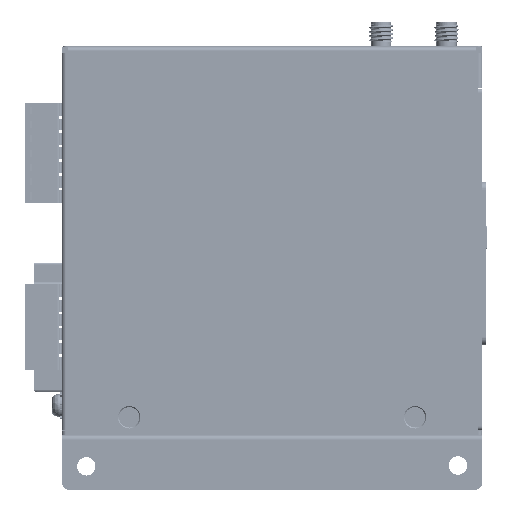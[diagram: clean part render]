
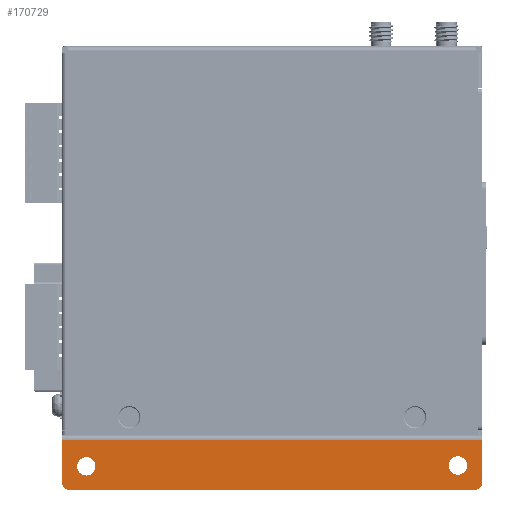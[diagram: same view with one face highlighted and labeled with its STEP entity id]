
A CAD part, left-side view. The second image highlights one B-rep face of the part: STEP entity #170729.
In plain terms, the highlighted planar face has unit normal (-1, 0, 0) as drawn and (0, -1, 0) by its records, which use the part's own axes.
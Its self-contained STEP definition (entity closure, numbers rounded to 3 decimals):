
#7935 = VERTEX_POINT ( 'NONE', #281971 ) ;
#8410 = LINE ( 'NONE', #318876, #205879 ) ;
#36762 = VERTEX_POINT ( 'NONE', #340315 ) ;
#43516 = CARTESIAN_POINT ( 'NONE',  ( 13.5, 0., -51.5 ) ) ;
#45576 = VERTEX_POINT ( 'NONE', #78691 ) ;
#54947 = DIRECTION ( 'NONE',  ( -1., 0., 0. ) ) ;
#57944 = VERTEX_POINT ( 'NONE', #59772 ) ;
#59772 = CARTESIAN_POINT ( 'NONE',  ( 9.75, 0., 45.5 ) ) ;
#62387 = CARTESIAN_POINT ( 'NONE',  ( 1.2, 0., -51.5 ) ) ;
#62994 = DIRECTION ( 'NONE',  ( 0., -1., 0. ) ) ;
#64166 = DIRECTION ( 'NONE',  ( 1., 0., 0. ) ) ;
#70300 = FACE_OUTER_BOUND ( 'NONE', #256128, .T. ) ;
#72680 = CARTESIAN_POINT ( 'NONE',  ( 1.2, 0., -51.5 ) ) ;
#73794 = AXIS2_PLACEMENT_3D ( 'NONE', #242521, #284144, #64166 ) ;
#78691 = CARTESIAN_POINT ( 'NONE',  ( 5.465, 0., -45.5 ) ) ;
#84995 = LINE ( 'NONE', #43516, #194263 ) ;
#87804 = EDGE_CURVE ( 'NONE', #36762, #442252, #8410, .T. ) ;
#87983 = LINE ( 'NONE', #303518, #217595 ) ;
#88719 = CIRCLE ( 'NONE', #96109, 2. ) ;
#90443 = EDGE_CURVE ( 'NONE', #124307, #57944, #355401, .T. ) ;
#93372 = VERTEX_POINT ( 'NONE', #143451 ) ;
#96109 = AXIS2_PLACEMENT_3D ( 'NONE', #408291, #158331, #371302 ) ;
#97506 = CARTESIAN_POINT ( 'NONE',  ( 11.5, 0., 49.5 ) ) ;
#102922 = LINE ( 'NONE', #72680, #138504 ) ;
#104261 = EDGE_CURVE ( 'NONE', #442252, #404345, #174017, .T. ) ;
#106018 = ORIENTED_EDGE ( 'NONE', *, *, #378816, .F. ) ;
#111975 = EDGE_LOOP ( 'NONE', ( #262454, #316065 ) ) ;
#124307 = VERTEX_POINT ( 'NONE', #124643 ) ;
#124643 = CARTESIAN_POINT ( 'NONE',  ( 5.25, 0., 45.5 ) ) ;
#125830 = CIRCLE ( 'NONE', #73794, 2.25 ) ;
#138504 = VECTOR ( 'NONE', #385245, 1000. ) ;
#143451 = CARTESIAN_POINT ( 'NONE',  ( 9.965, 0., -45.5 ) ) ;
#146598 = EDGE_CURVE ( 'NONE', #45576, #93372, #431271, .T. ) ;
#147280 = DIRECTION ( 'NONE',  ( 0., 0., 1. ) ) ;
#149064 = EDGE_CURVE ( 'NONE', #7935, #251797, #102922, .T. ) ;
#158331 = DIRECTION ( 'NONE',  ( 0., -1., 0. ) ) ;
#162852 = DIRECTION ( 'NONE',  ( 0., -1., 0. ) ) ;
#163751 = PLANE ( 'NONE',  #434114 ) ;
#166628 = CARTESIAN_POINT ( 'NONE',  ( 11.5, 0., 51.5 ) ) ;
#170729 = ADVANCED_FACE ( 'NONE', ( #318257, #409101, #70300 ), #163751, .F. ) ;
#173168 = EDGE_CURVE ( 'NONE', #93372, #45576, #125830, .T. ) ;
#174017 = CIRCLE ( 'NONE', #196135, 2. ) ;
#177737 = ORIENTED_EDGE ( 'NONE', *, *, #448762, .T. ) ;
#187188 = CARTESIAN_POINT ( 'NONE',  ( 13.5, 0., 49.5 ) ) ;
#188514 = CARTESIAN_POINT ( 'NONE',  ( 7.5, 0., 45.5 ) ) ;
#194263 = VECTOR ( 'NONE', #332938, 1000. ) ;
#196135 = AXIS2_PLACEMENT_3D ( 'NONE', #97506, #416919, #410072 ) ;
#196483 = ORIENTED_EDGE ( 'NONE', *, *, #173168, .F. ) ;
#205879 = VECTOR ( 'NONE', #147280, 1000. ) ;
#215099 = AXIS2_PLACEMENT_3D ( 'NONE', #345555, #62994, #239080 ) ;
#217595 = VECTOR ( 'NONE', #224803, 1000. ) ;
#224803 = DIRECTION ( 'NONE',  ( -1., 0., 0. ) ) ;
#239080 = DIRECTION ( 'NONE',  ( 1., 0., 0. ) ) ;
#242448 = AXIS2_PLACEMENT_3D ( 'NONE', #188514, #162852, #329874 ) ;
#242521 = CARTESIAN_POINT ( 'NONE',  ( 7.715, 0., -45.5 ) ) ;
#245911 = CARTESIAN_POINT ( 'NONE',  ( 7.715, 0., -45.5 ) ) ;
#249104 = VERTEX_POINT ( 'NONE', #259289 ) ;
#251797 = VERTEX_POINT ( 'NONE', #62387 ) ;
#256128 = EDGE_LOOP ( 'NONE', ( #106018, #177737, #414319, #310418, #411080, #299646 ) ) ;
#259289 = CARTESIAN_POINT ( 'NONE',  ( 11.5, 0., -51.5 ) ) ;
#262454 = ORIENTED_EDGE ( 'NONE', *, *, #376585, .F. ) ;
#276602 = DIRECTION ( 'NONE',  ( 0., 1., 0. ) ) ;
#281971 = CARTESIAN_POINT ( 'NONE',  ( 1.2, 0., 51.5 ) ) ;
#284144 = DIRECTION ( 'NONE',  ( 0., -1., 0. ) ) ;
#299646 = ORIENTED_EDGE ( 'NONE', *, *, #149064, .T. ) ;
#303518 = CARTESIAN_POINT ( 'NONE',  ( 13.5, 0., 51.5 ) ) ;
#306949 = ORIENTED_EDGE ( 'NONE', *, *, #146598, .F. ) ;
#310418 = ORIENTED_EDGE ( 'NONE', *, *, #104261, .T. ) ;
#316065 = ORIENTED_EDGE ( 'NONE', *, *, #90443, .F. ) ;
#318257 = FACE_BOUND ( 'NONE', #111975, .T. ) ;
#318876 = CARTESIAN_POINT ( 'NONE',  ( 13.5, 0., -51.5 ) ) ;
#329874 = DIRECTION ( 'NONE',  ( 1., 0., 0. ) ) ;
#332938 = DIRECTION ( 'NONE',  ( -1., 0., 0. ) ) ;
#333495 = EDGE_LOOP ( 'NONE', ( #196483, #306949 ) ) ;
#340315 = CARTESIAN_POINT ( 'NONE',  ( 13.5, 0., -49.5 ) ) ;
#345555 = CARTESIAN_POINT ( 'NONE',  ( 7.5, 0., 45.5 ) ) ;
#355401 = CIRCLE ( 'NONE', #215099, 2.25 ) ;
#371302 = DIRECTION ( 'NONE',  ( -1., 0., 0. ) ) ;
#372100 = CARTESIAN_POINT ( 'NONE',  ( 13.5, 0., -51.5 ) ) ;
#376585 = EDGE_CURVE ( 'NONE', #57944, #124307, #449171, .T. ) ;
#378816 = EDGE_CURVE ( 'NONE', #249104, #251797, #84995, .T. ) ;
#380126 = DIRECTION ( 'NONE',  ( 0., -1., 0. ) ) ;
#385245 = DIRECTION ( 'NONE',  ( 0., 0., -1. ) ) ;
#386936 = DIRECTION ( 'NONE',  ( 1., 0., 0. ) ) ;
#401828 = AXIS2_PLACEMENT_3D ( 'NONE', #245911, #380126, #386936 ) ;
#404345 = VERTEX_POINT ( 'NONE', #166628 ) ;
#405078 = EDGE_CURVE ( 'NONE', #404345, #7935, #87983, .T. ) ;
#408291 = CARTESIAN_POINT ( 'NONE',  ( 11.5, 0., -49.5 ) ) ;
#409101 = FACE_BOUND ( 'NONE', #333495, .T. ) ;
#410072 = DIRECTION ( 'NONE',  ( -1., 0., 0. ) ) ;
#411080 = ORIENTED_EDGE ( 'NONE', *, *, #405078, .T. ) ;
#414319 = ORIENTED_EDGE ( 'NONE', *, *, #87804, .T. ) ;
#416919 = DIRECTION ( 'NONE',  ( 0., -1., 0. ) ) ;
#431271 = CIRCLE ( 'NONE', #401828, 2.25 ) ;
#434114 = AXIS2_PLACEMENT_3D ( 'NONE', #372100, #276602, #54947 ) ;
#442252 = VERTEX_POINT ( 'NONE', #187188 ) ;
#448762 = EDGE_CURVE ( 'NONE', #249104, #36762, #88719, .T. ) ;
#449171 = CIRCLE ( 'NONE', #242448, 2.25 ) ;
